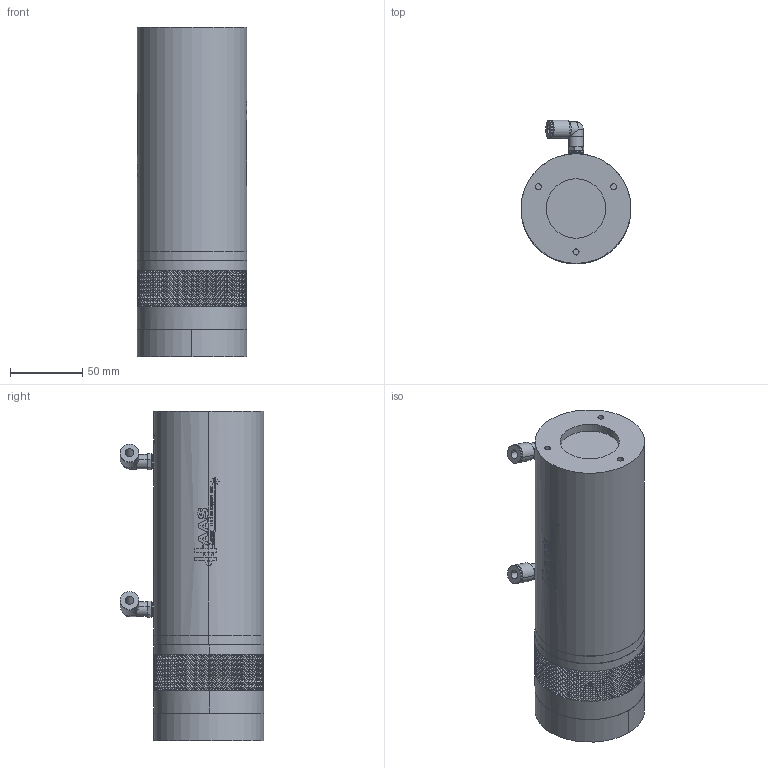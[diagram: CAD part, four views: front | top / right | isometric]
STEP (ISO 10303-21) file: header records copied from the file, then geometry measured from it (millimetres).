
FILE_DESCRIPTION (( 'STEP AP214' ), '1' );
FILE_NAME ('BEC-38-1.3-10.6-W.STEP', '2017-03-06T14:15:51', ( '' ), ( '' ), 'SwSTEP 2.0', 'SolidWorks 2017', '' );
FILE_SCHEMA (( 'AUTOMOTIVE_DESIGN' ));
Length unit declared in the file: inch
Products named in the file (1): BEC-38-1.3-10.6-W
Bounding box: 76.2 x 99.6 x 228.6 mm (x, y, z)
Volume: 1014503.5 mm3; surface area: 88405.1 mm2
Topology: 1 solids, 1 shells, 5743 faces, 12123 edges, 6469 vertices
Faces by surface type: bspline 4320, cylinder 1172, plane 205, cone 26, torus 16, sphere 4
Entity records: 226214 total; most frequent: CARTESIAN_POINT 154006, ORIENTED_EDGE 24238, EDGE_CURVE 12119, VERTEX_POINT 6469, EDGE_LOOP 5838, ADVANCED_FACE 5743, FACE_OUTER_BOUND 5743, DIRECTION 4550
